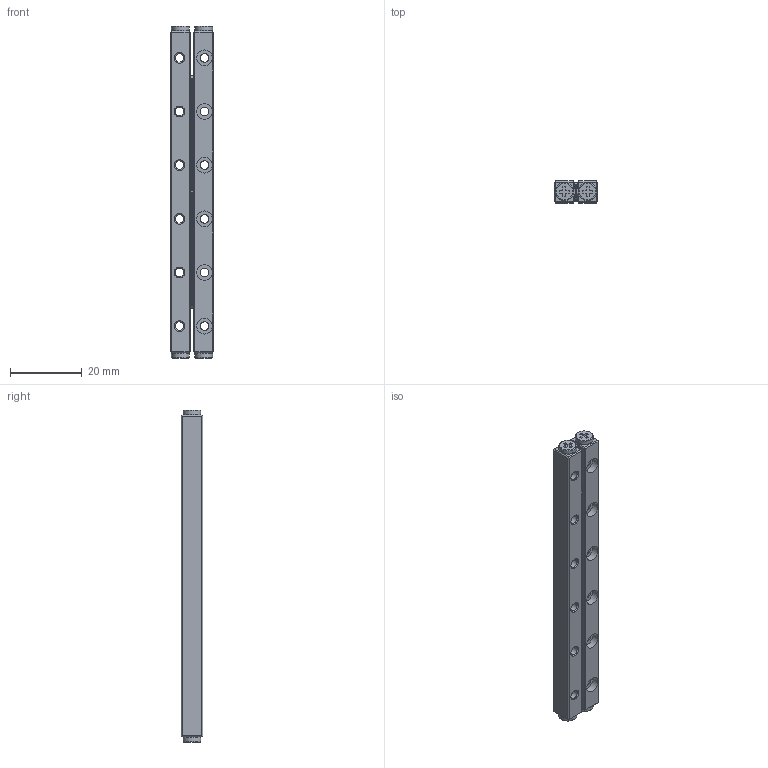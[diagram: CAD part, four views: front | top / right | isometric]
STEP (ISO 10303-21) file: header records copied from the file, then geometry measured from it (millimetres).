
FILE_DESCRIPTION(/* description */ ('Unknown'),/* implementation_level */ '2;1');
FILE_NAME(/* name */ 'VR2-90x16Z',/* time_stamp */ '2025-06-12T09:12:46+08:00',/* author */ ('Unknown'),/* organization */ ('Unknown'),/* preprocessor_version */ 'ST-DEVELOPER v18.102',/* originating_system */ 'Solid Edge',/* authorisation */ 'Unknown');
FILE_SCHEMA (('AUTOMOTIVE_DESIGN {1 0 10303 214 3 1 1}'));
Length unit declared in the file: millimetre
Products named in the file (3): VR2-90x16Z; VR2-90x16Z_rail; VR2-90x16Z_roller
Assembly tree (3 placements, depth 2):
  VR2-90x16Z
    VR2-90x16Z_rail  x2
    VR2-90x16Z_roller
Bounding box: 12 x 6 x 92.8 mm (x, y, z)
Volume: 5393.8 mm3; surface area: 5958.4 mm2
Topology: 3 solids, 3 shells, 394 faces, 1148 edges, 748 vertices
Faces by surface type: plane 262, cylinder 112, cone 12, torus 8
Full cylindrical faces by diameter (mm): 2 x16, 2.459 x12, 4.4 x12, 5 x4
Entity records: 10626 total; most frequent: DIRECTION 1720, CARTESIAN_POINT 1714, ORIENTED_EDGE 1664, EDGE_CURVE 832, AXIS2_PLACEMENT_3D 578, VERTEX_POINT 572, LINE 564, VECTOR 564
